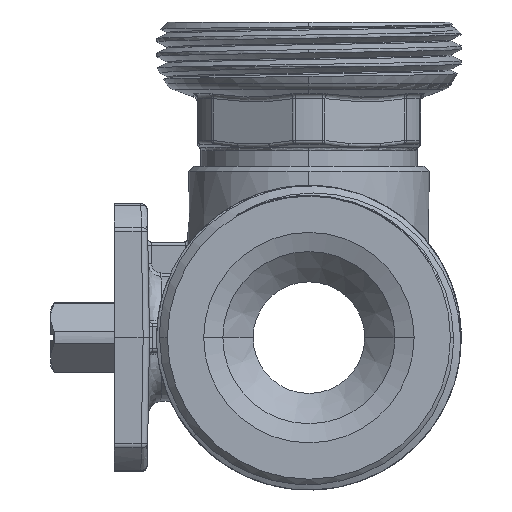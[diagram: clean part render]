
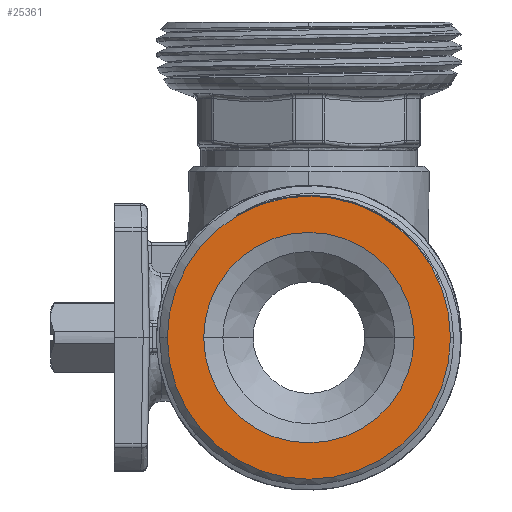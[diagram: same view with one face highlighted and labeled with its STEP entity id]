
A CAD part, left-side view. The second image highlights one B-rep face of the part: STEP entity #25361.
In plain terms, the highlighted planar face has unit normal (-1, 0, 0).
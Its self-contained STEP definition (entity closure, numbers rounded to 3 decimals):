
#2532=CARTESIAN_POINT('',(-49.,0.,0.));
#2533=DIRECTION('',(1.,0.,0.));
#2534=DIRECTION('',(0.,1.,0.));
#2535=AXIS2_PLACEMENT_3D('',#2532,#2533,#2534);
#3020=CARTESIAN_POINT('',(-49.,0.,0.));
#3021=DIRECTION('',(-1.,0.,0.));
#3022=DIRECTION('',(0.,1.,0.));
#3023=AXIS2_PLACEMENT_3D('',#3020,#3021,#3022);
#3025=CARTESIAN_POINT('',(-49.,0.,0.));
#3026=DIRECTION('',(-1.,0.,0.));
#3027=DIRECTION('',(0.,1.,0.));
#3028=AXIS2_PLACEMENT_3D('',#3025,#3026,#3027);
#3030=CARTESIAN_POINT('',(-49.,0.,0.));
#3031=DIRECTION('',(1.,0.,0.));
#3032=DIRECTION('',(0.,1.,0.));
#3033=AXIS2_PLACEMENT_3D('',#3030,#3031,#3032);
#21120=CARTESIAN_POINT('',(-49.,16.5,0.));
#21121=VERTEX_POINT('',#21120);
#21130=CARTESIAN_POINT('',(-49.,-16.5,0.));
#21131=VERTEX_POINT('',#21130);
#21132=CARTESIAN_POINT('',(-49.,22.2,0.));
#21133=CARTESIAN_POINT('',(-49.,-22.2,0.));
#21134=VERTEX_POINT('',#21132);
#21135=VERTEX_POINT('',#21133);
#25346=CARTESIAN_POINT('',(-49.,0.,0.));
#25347=DIRECTION('',(-1.,0.,0.));
#25348=DIRECTION('',(0.,1.,0.));
#25349=AXIS2_PLACEMENT_3D('',#25346,#25347,#25348);
#25350=PLANE('',#25349);
#25351=ORIENTED_EDGE('',*,*,#24632,.T.);
#25352=ORIENTED_EDGE('',*,*,#25340,.F.);
#25353=EDGE_LOOP('',(#25351,#25352));
#25354=FACE_OUTER_BOUND('',#25353,.F.);
#25356=ORIENTED_EDGE('',*,*,#25355,.T.);
#25358=ORIENTED_EDGE('',*,*,#25357,.F.);
#25359=EDGE_LOOP('',(#25356,#25358));
#25360=FACE_BOUND('',#25359,.F.);
#2536=CIRCLE('',#2535,22.2);
#3024=CIRCLE('',#3023,22.2);
#3029=CIRCLE('',#3028,16.5);
#3034=CIRCLE('',#3033,16.5);
#24632=EDGE_CURVE('',#21134,#21135,#2536,.T.);
#25340=EDGE_CURVE('',#21134,#21135,#3024,.T.);
#25355=EDGE_CURVE('',#21121,#21131,#3029,.T.);
#25357=EDGE_CURVE('',#21121,#21131,#3034,.T.);
#25361=ADVANCED_FACE('',(#25354,#25360),#25350,.T.);
